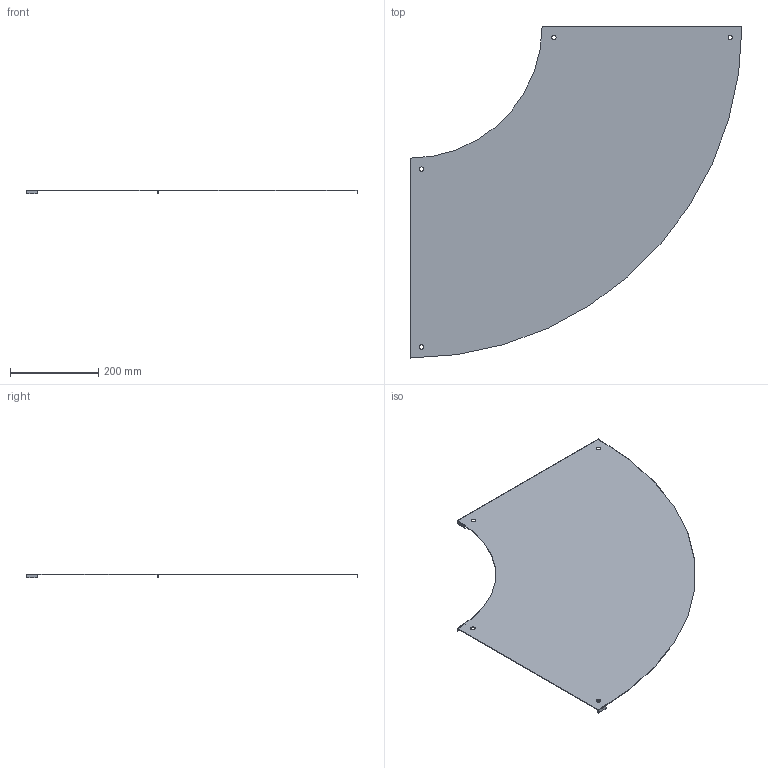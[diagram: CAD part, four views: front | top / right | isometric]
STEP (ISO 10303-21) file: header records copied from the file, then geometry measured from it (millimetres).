
FILE_DESCRIPTION(/* description */ ('','CAx-IF Rec.Pracs.---Representation and Presentation of Product Manufacturing Information (PMI)---4.0---2014-10-13'),/* implementation_level */ '2;1');
FILE_NAME(/* name */ 'Eurostrut_EFBC400-90-300_Cover Bend 90 for Cable Ladder ECL.step',/* time_stamp */ '2026-09-10T08:55:06+02:00',/* author */ (''),/* organization */ (''),/* preprocessor_version */ 'ST-DEVELOPER v20.1',/* originating_system */ 'Autodesk Revit 2027 27.2.0.39',/* authorisation */ '');
FILE_SCHEMA (('AP242_MANAGED_MODEL_BASED_3D_ENGINEERING_MIM_LF { 1 0 10303 442 2 1 4 }'));
Length unit declared in the file: millimetre
Products named in the file (5): TopLevelAssembly; Sweep; Sweep_1; Joined Solid Geometry; Joined Solid Geometry_1
Assembly tree (4 placements, depth 2):
  TopLevelAssembly
    Sweep
    Sweep_1
    Joined Solid Geometry
    Joined Solid Geometry_1
Bounding box: 752.5 x 752.5 x 9 mm (x, y, z)
Volume: 562420.5 mm3; surface area: 754413.8 mm2
Topology: 9 solids, 9 shells, 66 faces, 144 edges, 96 vertices
Faces by surface type: plane 48, cylinder 18
Entity records: 1904 total; most frequent: DIRECTION 330, CARTESIAN_POINT 315, ORIENTED_EDGE 288, EDGE_CURVE 144, AXIS2_PLACEMENT_3D 111, LINE 108, VECTOR 108, VERTEX_POINT 96
